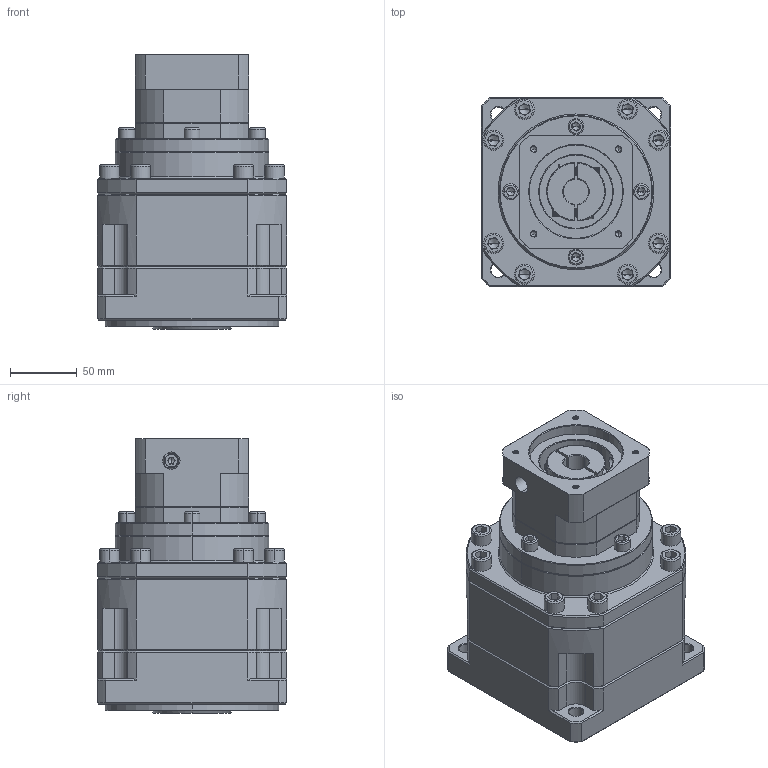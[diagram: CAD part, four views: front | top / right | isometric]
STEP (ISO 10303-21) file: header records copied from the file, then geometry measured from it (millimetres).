
FILE_DESCRIPTION (( 'STEP AP214' ), '1' );
FILE_NAME ('ZB142A-K35-L3-19-70-90-M5.step', '2023-03-18T08:17:20', ( '' ), ( '' ), 'SwSTEP 2.0', 'SolidWorks 2016', '' );
FILE_SCHEMA (( 'AUTOMOTIVE_DESIGN' ));
Length unit declared in the file: millimetre
Products named in the file (1): ZB142A-K35-L3-19-70-90-M5
Bounding box: 142 x 142 x 206.2 mm (x, y, z)
Volume: 2615398 mm3; surface area: 193075.6 mm2
Topology: 5 solids, 5 shells, 2173 faces, 5593 edges, 3532 vertices
Faces by surface type: plane 1039, cylinder 429, cone 354, bspline 307, torus 44
Entity records: 110357 total; most frequent: CARTESIAN_POINT 36132, ORIENTED_EDGE 11082, DIRECTION 9359, EDGE_CURVE 5541, VERTEX_POINT 3532, LINE 3517, VECTOR 3517, AXIS2_PLACEMENT_3D 2921
